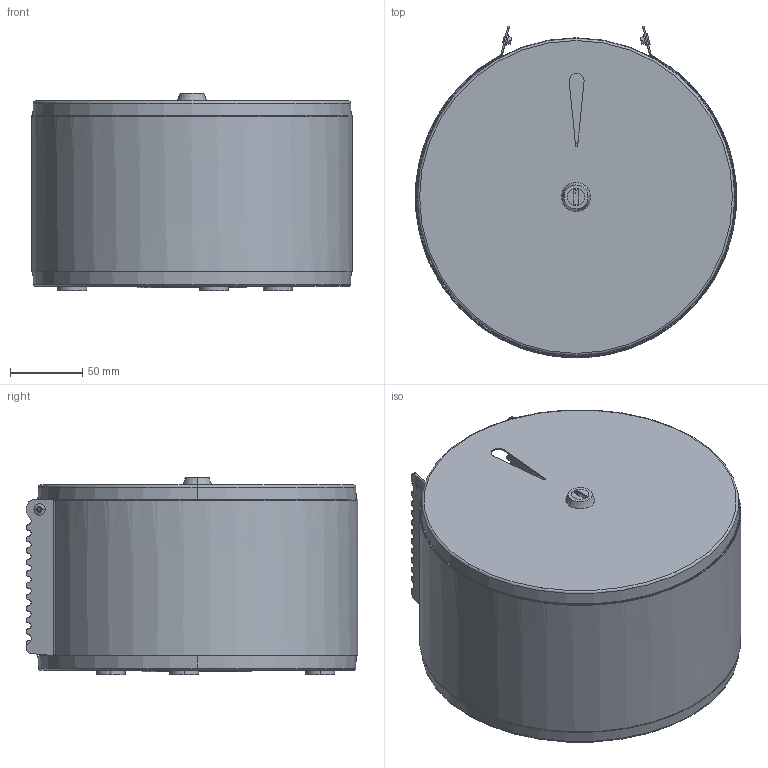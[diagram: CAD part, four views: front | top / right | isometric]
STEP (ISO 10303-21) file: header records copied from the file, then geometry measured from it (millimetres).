
FILE_DESCRIPTION (( 'STEP AP203' ), '1' );
FILE_NAME ('TD10808.STEP', '2016-12-22T12:59:48', ( '' ), ( '' ), 'SwSTEP 2.0', 'SolidWorks 2016', '' );
FILE_SCHEMA (( 'CONFIG_CONTROL_DESIGN' ));
Length unit declared in the file: millimetre
Products named in the file (1): TD10808
Bounding box: 221.93 x 229.07 x 136.2 mm (x, y, z)
Volume: 406855.5 mm3; surface area: 446092.7 mm2
Topology: 23 solids, 23 shells, 527 faces, 1350 edges, 882 vertices
Faces by surface type: plane 215, cylinder 132, bspline 124, torus 28, cone 28
Entity records: 26570 total; most frequent: CARTESIAN_POINT 14409, ORIENTED_EDGE 2700, DIRECTION 2178, EDGE_CURVE 1350, VERTEX_POINT 882, AXIS2_PLACEMENT_3D 744, VECTOR 690, LINE 690
